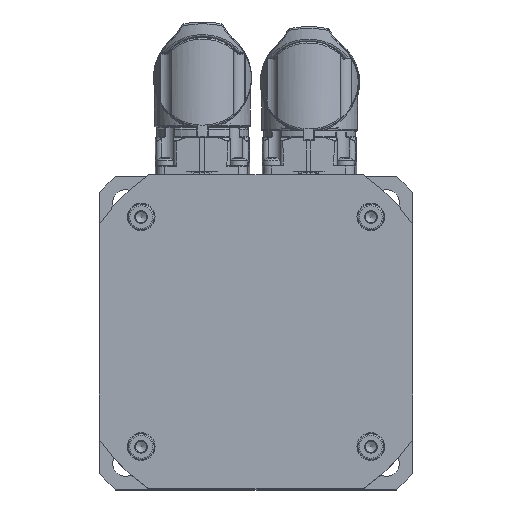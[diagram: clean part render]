
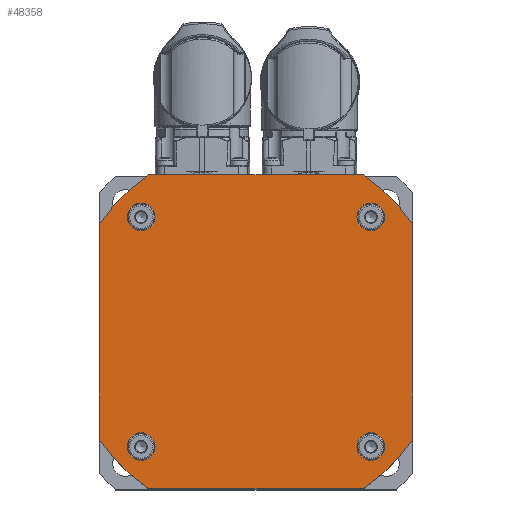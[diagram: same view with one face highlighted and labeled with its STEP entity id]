
A CAD part, top view. The second image highlights one B-rep face of the part: STEP entity #48358.
In plain terms, the highlighted planar face has unit normal (0, 0, 1).
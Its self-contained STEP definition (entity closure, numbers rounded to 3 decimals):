
#7391=LINE('',#70125,#9156);
#7397=LINE('',#70160,#9162);
#7400=LINE('',#70168,#9165);
#7404=LINE('',#70176,#9169);
#9156=VECTOR('',#57224,58.172);
#9162=VECTOR('',#57268,58.172);
#9165=VECTOR('',#57277,58.172);
#9169=VECTOR('',#57287,58.172);
#10887=PLANE('',#51540);
#11491=FACE_BOUND('',#15039,.T.);
#11492=FACE_BOUND('',#15040,.T.);
#11493=FACE_BOUND('',#15041,.T.);
#11494=FACE_BOUND('',#15042,.T.);
#11495=FACE_BOUND('',#15043,.T.);
#15039=EDGE_LOOP('',(#33265));
#15040=EDGE_LOOP('',(#33266));
#15041=EDGE_LOOP('',(#33267));
#15042=EDGE_LOOP('',(#33268));
#15043=EDGE_LOOP('',(#33269,#33270,#33271,#33272,#33273,#33274,#33275,#33276));
#18445=CIRCLE('',#51513,51.5);
#18446=CIRCLE('',#51516,3.75);
#18448=CIRCLE('',#51520,3.75);
#18450=CIRCLE('',#51524,3.75);
#18452=CIRCLE('',#51528,3.75);
#18454=CIRCLE('',#51532,51.5);
#18455=CIRCLE('',#51535,51.5);
#18456=CIRCLE('',#51538,51.5);
#21231=VERTEX_POINT('',#70118);
#21232=VERTEX_POINT('',#70120);
#21233=VERTEX_POINT('',#70124);
#21234=VERTEX_POINT('',#70129);
#21236=VERTEX_POINT('',#70135);
#21238=VERTEX_POINT('',#70141);
#21240=VERTEX_POINT('',#70147);
#21242=VERTEX_POINT('',#70153);
#21243=VERTEX_POINT('',#70155);
#21244=VERTEX_POINT('',#70162);
#21245=VERTEX_POINT('',#70167);
#21246=VERTEX_POINT('',#70171);
#25813=EDGE_CURVE('',#21232,#21231,#18445,.T.);
#25815=EDGE_CURVE('',#21233,#21232,#7391,.T.);
#25818=EDGE_CURVE('',#21234,#21234,#18446,.T.);
#25820=EDGE_CURVE('',#21236,#21236,#18448,.T.);
#25822=EDGE_CURVE('',#21238,#21238,#18450,.T.);
#25824=EDGE_CURVE('',#21240,#21240,#18452,.T.);
#25827=EDGE_CURVE('',#21243,#21242,#18454,.T.);
#25830=EDGE_CURVE('',#21231,#21243,#7397,.T.);
#25831=EDGE_CURVE('',#21244,#21233,#18455,.T.);
#25834=EDGE_CURVE('',#21245,#21244,#7400,.T.);
#25836=EDGE_CURVE('',#21246,#21245,#18456,.T.);
#25839=EDGE_CURVE('',#21242,#21246,#7404,.T.);
#33265=ORIENTED_EDGE('',*,*,#25818,.T.);
#33266=ORIENTED_EDGE('',*,*,#25820,.T.);
#33267=ORIENTED_EDGE('',*,*,#25822,.T.);
#33268=ORIENTED_EDGE('',*,*,#25824,.T.);
#33269=ORIENTED_EDGE('',*,*,#25839,.T.);
#33270=ORIENTED_EDGE('',*,*,#25836,.T.);
#33271=ORIENTED_EDGE('',*,*,#25834,.T.);
#33272=ORIENTED_EDGE('',*,*,#25831,.T.);
#33273=ORIENTED_EDGE('',*,*,#25815,.T.);
#33274=ORIENTED_EDGE('',*,*,#25813,.T.);
#33275=ORIENTED_EDGE('',*,*,#25830,.T.);
#33276=ORIENTED_EDGE('',*,*,#25827,.T.);
#48358=ADVANCED_FACE('',(#11491,#11492,#11493,#11494,#11495),#10887,.T.);
#51513=AXIS2_PLACEMENT_3D('',#70121,#57219,#57220);
#51516=AXIS2_PLACEMENT_3D('',#70130,#57229,#57230);
#51520=AXIS2_PLACEMENT_3D('',#70136,#57237,#57238);
#51524=AXIS2_PLACEMENT_3D('',#70142,#57245,#57246);
#51528=AXIS2_PLACEMENT_3D('',#70148,#57253,#57254);
#51532=AXIS2_PLACEMENT_3D('',#70156,#57262,#57263);
#51535=AXIS2_PLACEMENT_3D('',#70163,#57271,#57272);
#51538=AXIS2_PLACEMENT_3D('',#70172,#57281,#57282);
#51540=AXIS2_PLACEMENT_3D('',#70177,#57288,#57289);
#57219=DIRECTION('center_axis',(0.,0.,1.));
#57220=DIRECTION('ref_axis',(0.565,-0.825,0.));
#57224=DIRECTION('',(1.,0.,0.));
#57229=DIRECTION('center_axis',(0.,0.,-1.));
#57230=DIRECTION('ref_axis',(0.,-1.,0.));
#57237=DIRECTION('center_axis',(0.,0.,-1.));
#57238=DIRECTION('ref_axis',(-1.,0.,0.));
#57245=DIRECTION('center_axis',(0.,0.,-1.));
#57246=DIRECTION('ref_axis',(0.,1.,0.));
#57253=DIRECTION('center_axis',(0.,0.,-1.));
#57254=DIRECTION('ref_axis',(1.,0.,0.));
#57262=DIRECTION('center_axis',(0.,0.,1.));
#57263=DIRECTION('ref_axis',(0.825,0.565,0.));
#57268=DIRECTION('',(0.,1.,0.));
#57271=DIRECTION('center_axis',(0.,0.,1.));
#57272=DIRECTION('ref_axis',(-0.825,-0.565,0.));
#57277=DIRECTION('',(0.,-1.,0.));
#57281=DIRECTION('center_axis',(0.,0.,1.));
#57282=DIRECTION('ref_axis',(-0.565,0.825,0.));
#57287=DIRECTION('',(-1.,0.,0.));
#57288=DIRECTION('center_axis',(0.,0.,1.));
#57289=DIRECTION('ref_axis',(1.,0.,0.));
#70118=CARTESIAN_POINT('',(42.5,-29.086,207.6));
#70120=CARTESIAN_POINT('',(29.086,-42.5,207.6));
#70121=CARTESIAN_POINT('Origin',(0.,0.,207.6));
#70124=CARTESIAN_POINT('',(-29.086,-42.5,207.6));
#70125=CARTESIAN_POINT('',(-42.5,-42.5,207.6));
#70129=CARTESIAN_POINT('',(31.113,-34.863,207.6));
#70130=CARTESIAN_POINT('Origin',(31.113,-31.113,207.6));
#70135=CARTESIAN_POINT('',(-34.863,-31.113,207.6));
#70136=CARTESIAN_POINT('Origin',(-31.113,-31.113,207.6));
#70141=CARTESIAN_POINT('',(-31.113,34.863,207.6));
#70142=CARTESIAN_POINT('Origin',(-31.113,31.113,207.6));
#70147=CARTESIAN_POINT('',(34.863,31.113,207.6));
#70148=CARTESIAN_POINT('Origin',(31.113,31.113,207.6));
#70153=CARTESIAN_POINT('',(29.086,42.5,207.6));
#70155=CARTESIAN_POINT('',(42.5,29.086,207.6));
#70156=CARTESIAN_POINT('Origin',(0.,0.,207.6));
#70160=CARTESIAN_POINT('',(42.5,-42.5,207.6));
#70162=CARTESIAN_POINT('',(-42.5,-29.086,207.6));
#70163=CARTESIAN_POINT('Origin',(0.,0.,207.6));
#70167=CARTESIAN_POINT('',(-42.5,29.086,207.6));
#70168=CARTESIAN_POINT('',(-42.5,42.5,207.6));
#70171=CARTESIAN_POINT('',(-29.086,42.5,207.6));
#70172=CARTESIAN_POINT('Origin',(0.,0.,207.6));
#70176=CARTESIAN_POINT('',(42.5,42.5,207.6));
#70177=CARTESIAN_POINT('Origin',(0.,0.,
207.6));
